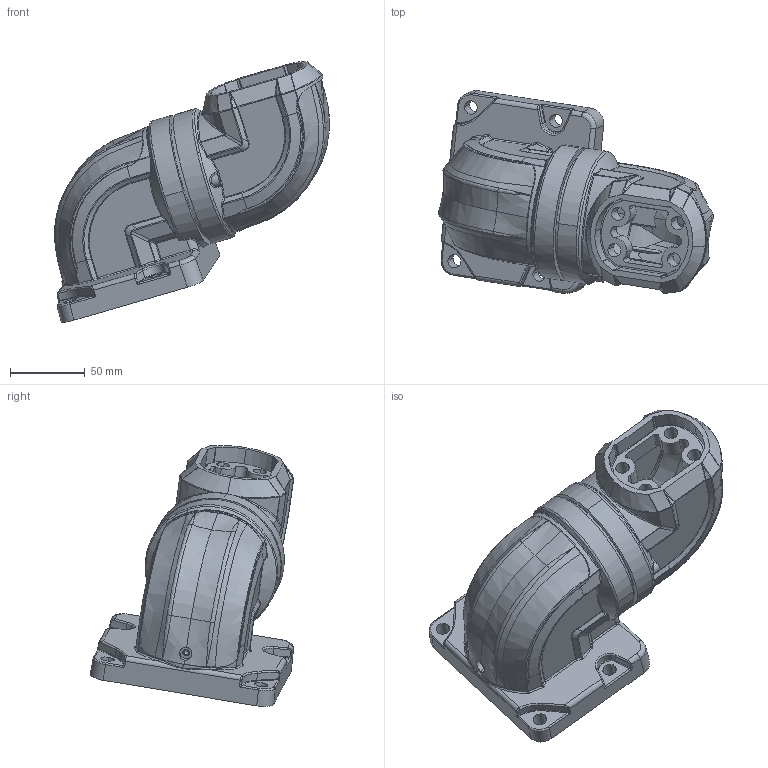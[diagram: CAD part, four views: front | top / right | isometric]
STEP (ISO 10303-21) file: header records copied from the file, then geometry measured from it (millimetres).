
FILE_DESCRIPTION (( 'STEP AP203' ), '1' );
FILE_NAME ('50-65-5060.STEP', '2019-10-03T05:25:21', ( 'User' ), ( 'Microsoft' ), 'SwSTEP 2.0', 'SolidWorks 2017', '' );
FILE_SCHEMA (( 'CONFIG_CONTROL_DESIGN' ));
Length unit declared in the file: millimetre
Products named in the file (4): 50-階釱; 50裔赽; 50-65-5060; 50-Х釴1
Assembly tree (4 placements, depth 2):
  50-65-5060
    50-Х釴1
    50-階釱
    50裔赽  x2
Bounding box: 184.16 x 136.14 x 174.87 mm (x, y, z)
Volume: 463713.2 mm3; surface area: 170090.6 mm2
Topology: 4 solids, 6 shells, 989 faces, 2510 edges, 1519 vertices
Faces by surface type: bspline 365, cylinder 339, plane 261, cone 16, torus 8
Entity records: 58703 total; most frequent: CARTESIAN_POINT 40295, ORIENTED_EDGE 4298, DIRECTION 2855, EDGE_CURVE 2149, VERTEX_POINT 1308, AXIS2_PLACEMENT_3D 1031, EDGE_LOOP 905, FACE_OUTER_BOUND 863
